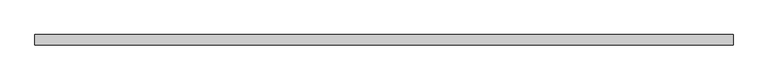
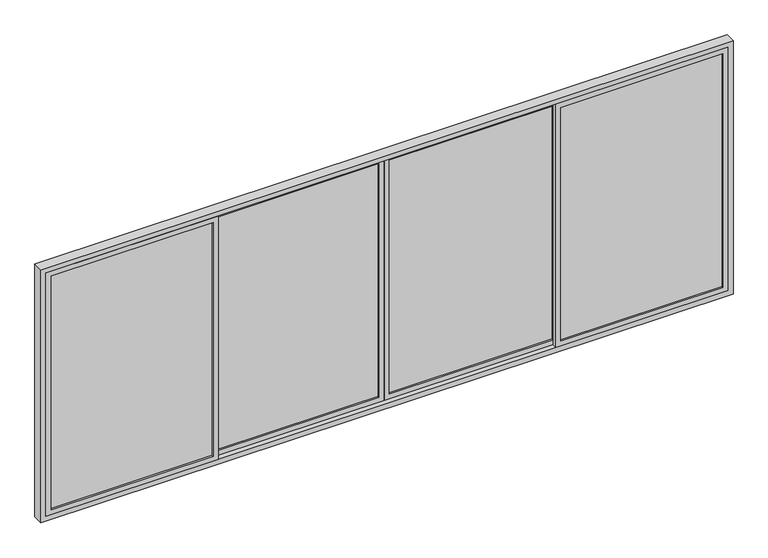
"""IFC4 building model written with IfcOpenShell, lengths in millimetres: proxy geometry, REN_TEM_WIN_SUB_Slide4 : REN_TEM_WIN_SUB_Slide4."""

from ifc_helpers import new_model, si_unit, frame, origin, place, context, project, spatial, polyline, outline, extrude, source, transform, mapped, element, save


def generic_models_3707517a(model_context):
    return source(origin(), model_context, "Body", "SweptSolid", [
        extrude(outline(polyline([(1970.0, 79.9933422), (60.0, 79.9933422), (60.0, 99.9933422), (1970.0, 99.9933422), (1970.0, 79.9933422)])), frame((0.0, 0.0, 965.0), z_axis=(0.0, 0.0, 1.0), x_axis=(1.0, 0.0, 0.0)), (0.0, 0.0, 1.0), 2885.0),
        extrude(outline(polyline([(3910.0, 0.0), (905.0, 0.0), (905.0, 2030.0), (3910.0, 2030.0), (3910.0, 0.0)]), holes=[polyline([(3850.0, 1970.0), (965.0, 1970.0), (965.0, 60.0), (3850.0, 60.0), (3850.0, 1970.0)])]), frame((0.0, 59.9933422, 0.0), z_axis=(0.0, 1.0, 0.0), x_axis=(0.0, 0.0, 1.0)), (0.0, 0.0, 1.0), 60.0),
        extrude(outline(polyline([(-60.0, 79.9933422), (-1970.0, 79.9933422), (-1970.0, 99.9933422), (-60.0, 99.9933422), (-60.0, 79.9933422)])), frame((0.0, 0.0, 965.0), z_axis=(0.0, 0.0, 1.0), x_axis=(1.0, 0.0, 0.0)), (0.0, 0.0, 1.0), 2885.0),
        extrude(outline(polyline([(3910.0, -2030.0), (905.0, -2030.0), (905.0, 0.0), (3910.0, 0.0), (3910.0, -2030.0)]), holes=[polyline([(3850.0, -60.0), (965.0, -60.0), (965.0, -1970.0), (3850.0, -1970.0), (3850.0, -60.0)])]), frame((0.0, 59.9933422, 0.0), z_axis=(0.0, 1.0, 0.0), x_axis=(0.0, 0.0, 1.0)), (0.0, 0.0, 1.0), 60.0),
        extrude(outline(polyline([(3920.0, 19.9933422), (2030.0, 19.9933422), (2030.0, 39.9933422), (3920.0, 39.9933422), (3920.0, 19.9933422)])), frame((0.0, 0.0, 965.0), z_axis=(0.0, 0.0, 1.0), x_axis=(1.0, 0.0, 0.0)), (0.0, 0.0, 1.0), 2885.0),
        extrude(outline(polyline([(3910.0, 1970.0), (905.0, 1970.0), (905.0, 3980.0), (3910.0, 3980.0), (3910.0, 1970.0)]), holes=[polyline([(3850.0, 3920.0), (965.0, 3920.0), (965.0, 2030.0), (3850.0, 2030.0), (3850.0, 3920.0)])]), frame((0.0, 0.0, 0.0), z_axis=(0.0, 1.0, 0.0), x_axis=(0.0, 0.0, 1.0)), (0.0, 0.0, 1.0), 59.9933422),
        extrude(outline(polyline([(-2030.0, 19.9933422), (-3920.0, 19.9933422), (-3920.0, 39.9933422), (-2030.0, 39.9933422), (-2030.0, 19.9933422)])), frame((0.0, 0.0, 965.0), z_axis=(0.0, 0.0, 1.0), x_axis=(1.0, 0.0, 0.0)), (0.0, 0.0, 1.0), 2885.0),
        extrude(outline(polyline([(3910.0, -3980.0), (905.0, -3980.0), (905.0, -1970.0), (3910.0, -1970.0), (3910.0, -3980.0)]), holes=[polyline([(3850.0, -2030.0), (965.0, -2030.0), (965.0, -3920.0), (3850.0, -3920.0), (3850.0, -2030.0)])]), frame((0.0, -0.0066578, 0.0), z_axis=(0.0, 1.0, 0.0), x_axis=(0.0, 0.0, 1.0)), (0.0, 0.0, 1.0), 60.0),
        extrude(outline(polyline([(3970.0, -4040.0), (845.0, -4040.0), (845.0, 4040.0), (3970.0, 4040.0), (3970.0, -4040.0)]), holes=[polyline([(3910.0, 3980.0), (905.0, 3980.0), (905.0, -3980.0), (3910.0, -3980.0), (3910.0, 3980.0)])]), frame((0.0, -0.0066578, 0.0), z_axis=(0.0, 1.0, 0.0), x_axis=(0.0, 0.0, 1.0)), (0.0, 0.0, 1.0), 120.0),
    ])


if __name__ == "__main__":
    model = new_model("IFC4")
    model_context = context("Model", 3, world=origin())
    ifc_project = project(units=[si_unit("LENGTHUNIT", "METRE", prefix="MILLI")], contexts=[model_context])
    site = spatial("IfcSite", under=ifc_project)
    building = spatial("IfcBuilding", under=site)
    placement = place(None, origin())
    generic_models_shape = generic_models_3707517a(model_context)
    element("IfcBuildingElementProxy", 1, Name="REN_TEM_WIN_SUB_Slide4 : REN_TEM_WIN_SUB_Slide4", ObjectType="REN_TEM_WIN_SUB_Slide4 : REN_TEM_WIN_SUB_Slide4", at=placement, inside=building, context=model_context, shape_type="MappedRepresentation", body=[
        mapped(generic_models_shape, transform((0.0, 0.0, 0.0), x_axis=(1.0, 0.0, 0.0), y_axis=(0.0, 1.0, 0.0), z_axis=(0.0, 0.0, 1.0))),
    ])
    save(model, "model.ifc")
